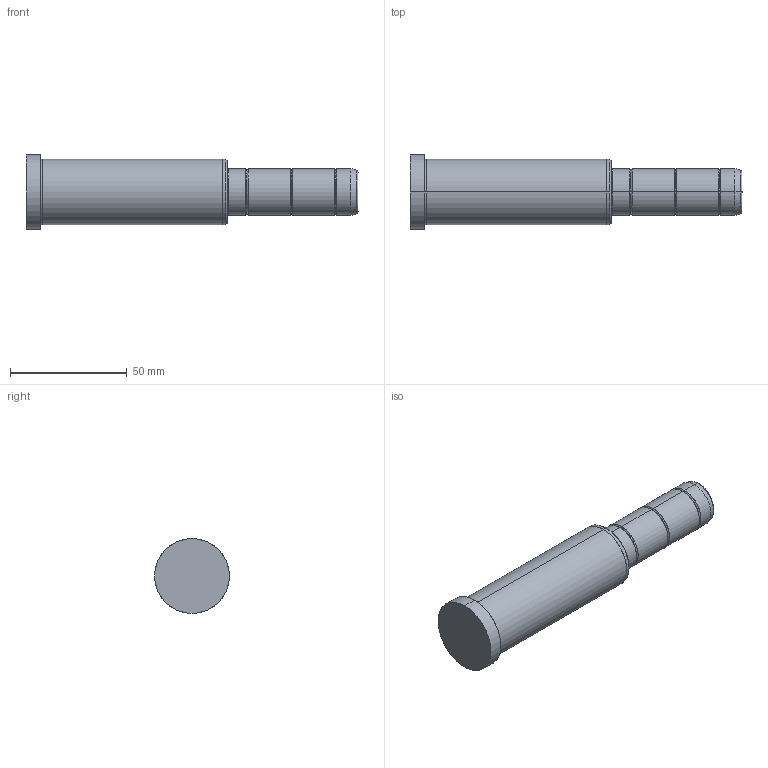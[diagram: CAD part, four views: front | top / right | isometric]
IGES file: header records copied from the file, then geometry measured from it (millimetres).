
Start section: SolidWorks IGES file using analytic representation for surfaces
Global section: file name: C:\Documents and Settings\kalite-mail\Desktop\IGS\D02\20\D02 - 20x86x56.IGS; native system: SolidWorks 2008; preprocessor: SolidWorks 2008; author: kalite-mail; date: 080616.164651; units: millimetre
Bounding box: 142 x 32 x 32 mm (x, y, z)
Surface area: 12769.7 mm2 (no closed solid volume)
Topology: 0 solids, 0 shells, 42 faces, 688 edges, 688 vertices
Faces by surface type: bspline 22, revolution 20
